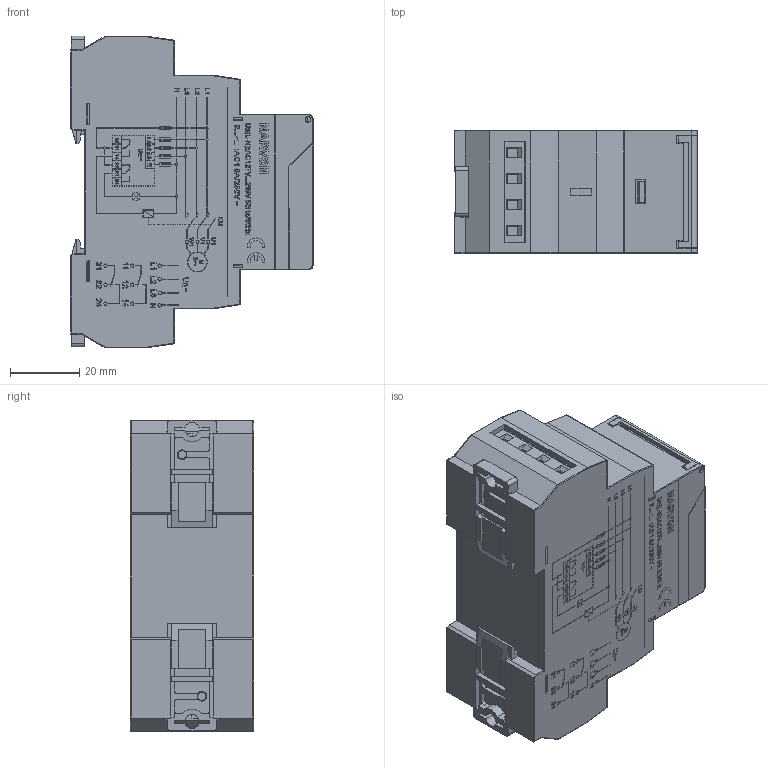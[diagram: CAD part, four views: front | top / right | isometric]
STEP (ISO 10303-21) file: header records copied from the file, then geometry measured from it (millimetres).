
FILE_DESCRIPTION (( 'STEP AP214' ), '1' );
FILE_NAME ('NARVSN.STEP', '2026-03-23T09:34:20', ( '' ), ( '' ), 'SwSTEP 2.0', 'SolidWorks 2025', '' );
FILE_SCHEMA (( 'AUTOMOTIVE_DESIGN' ));
Length unit declared in the file: millimetre
Products named in the file (1): NARVSN
Bounding box: 70.03 x 35.6 x 90 mm (x, y, z)
Volume: 150090.3 mm3; surface area: 39144 mm2
Topology: 2 solids, 26 shells, 1464 faces, 6254 edges, 5163 vertices
Faces by surface type: plane 1066, cylinder 322, torus 44, cone 24, sphere 8
Entity records: 78608 total; most frequent: CARTESIAN_POINT 13063, ORIENTED_EDGE 12492, DIRECTION 9777, EDGE_CURVE 6246, LINE 5519, VECTOR 5519, VERTEX_POINT 5163, AXIS2_PLACEMENT_3D 2129
